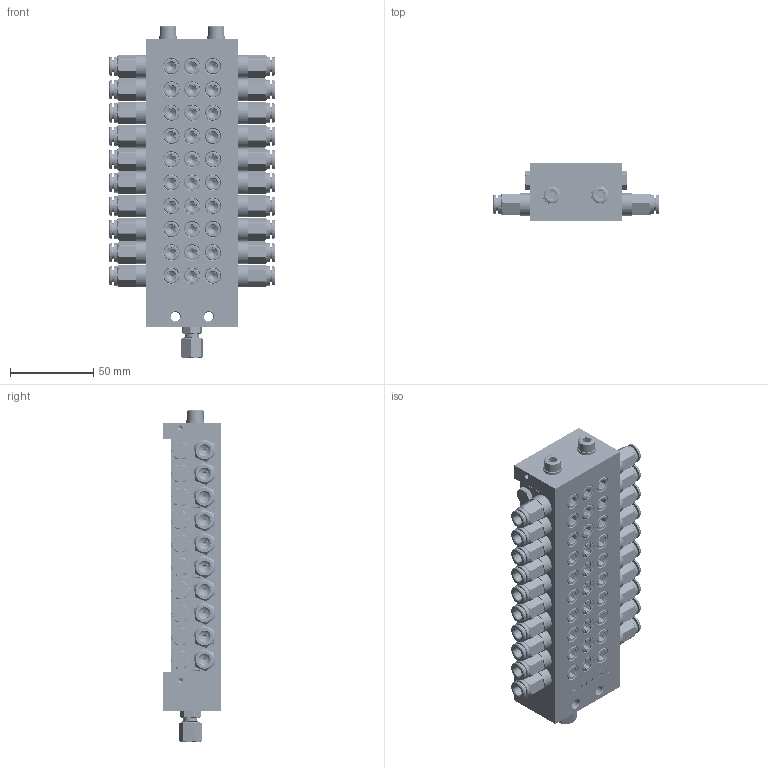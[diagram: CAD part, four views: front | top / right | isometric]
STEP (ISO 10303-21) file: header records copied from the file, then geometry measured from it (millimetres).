
FILE_DESCRIPTION (( 'STEP AP214' ), '1' );
FILE_NAME ('STW_XV_0143_20_0502_20_Auslässe.STEP', '2026-02-04T10:21:00', ( '' ), ( '' ), 'SwSTEP 2.0', 'SolidWorks 2022', '' );
FILE_SCHEMA (( 'AUTOMOTIVE_DESIGN' ));
Length unit declared in the file: millimetre
Products named in the file (18): STW_XV_MITTEL_1; STW_XV_Kolbenanschlag; 991214010601_Mutter; DR6-C_HDX_25.07.16_1; 991214010601; STW_XV_ENGANG; XV_Mittelelement; RIVOLUZIONE_0_2; Verschlussstopfen_1_8_2; U_Scheibe_6; H200139_HDS01_6_M10X1_08.05.17; 991214010601_Schneidring; STW_XV_0143_20_0502_20_Auslässe; STW_XV_Verbindungsstopen; 991214010601_Koerper; STW_XV_END; M6X65_DIN_912; OR 7.66X1.78_1
Assembly tree (64 placements, depth 3):
  STW_XV_0143_20_0502_20_Auslässe
    STW_XV_ENGANG
    STW_XV_MITTEL_1  x3
    STW_XV_END
    Verschlussstopfen_1_8_2  x6
    STW_XV_Kolbenanschlag  x6
    STW_XV_Verbindungsstopen  x3
    M6X65_DIN_912  x2
    U_Scheibe_6  x2
    991214010601
      991214010601_Koerper
      991214010601_Schneidring
      991214010601_Mutter
    XV_Mittelelement  x7
      STW_XV_MITTEL_1
      STW_XV_Kolbenanschlag
      Verschlussstopfen_1_8_2
      STW_XV_Verbindungsstopen
    H200139_HDS01_6_M10X1_08.05.17  x20
      OR 7.66X1.78_1
      DR6-C_HDX_25.07.16_1
      RIVOLUZIONE_0_2
Bounding box: 99.6 x 35 x 199.68 mm (x, y, z)
Volume: 312264.9 mm3; surface area: 194721.7 mm2
Topology: 129 solids, 129 shells, 4212 faces, 10919 edges, 7028 vertices
Faces by surface type: plane 2067, cylinder 1041, cone 842, bspline 242, torus 20
Full cylindrical faces by diameter (mm): 2 x257, 3 x17, 4.2 x20, 4.5 x1, 5 x101, 5.5 x2, 5.9 x2, 6 x3, 6.2 x43, 6.3 x20, 6.4 x2, 6.5 x20, 7 x20, 7.2 x20, 7.4 x1, 7.67 x1, 8 x21, 8.3 x1, 8.4 x10, 8.5 x20, 8.6 x50, 9 x22, 9.7 x20, 9.73 x10, 9.8 x7, 9.9 x20, 10 x62, 10.3 x20, 11 x2, 11.5 x20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
Entity records: 44945 total; most frequent: CARTESIAN_POINT 22313, ORIENTED_EDGE 2994, DIRECTION 2653, EDGE_CURVE 1497, VERTEX_POINT 1072, EDGE_LOOP 1011, AXIS2_PLACEMENT_3D 953, FACE_OUTER_BOUND 812
